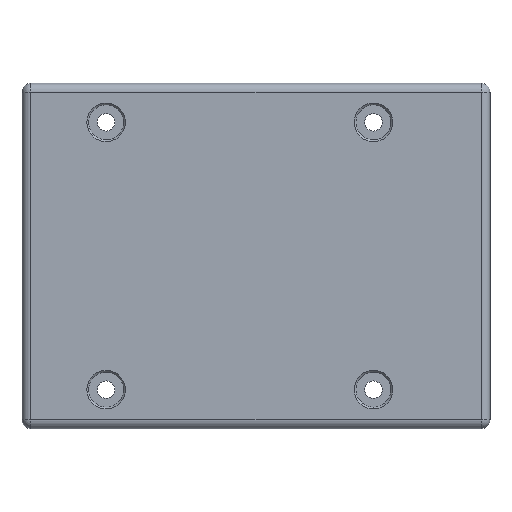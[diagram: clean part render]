
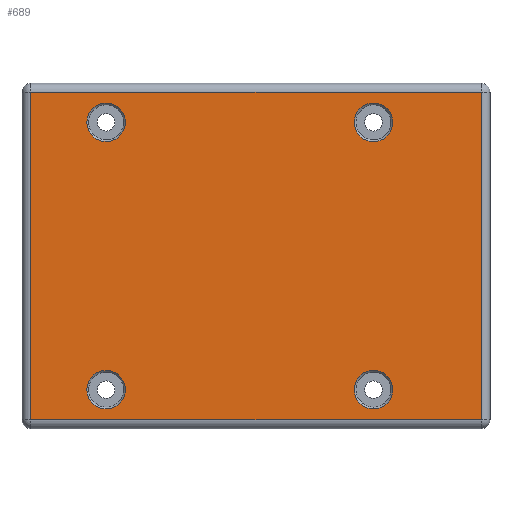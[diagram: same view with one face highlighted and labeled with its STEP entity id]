
A CAD part, front view. The second image highlights one B-rep face of the part: STEP entity #689.
In plain terms, the highlighted planar face has unit normal (0, -1, 0).
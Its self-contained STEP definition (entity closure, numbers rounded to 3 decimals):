
#6 = EDGE_CURVE ( 'NONE', #1682, #3384, #2053, .T. ) ;
#23 = ORIENTED_EDGE ( 'NONE', *, *, #2662, .T. ) ;
#28 = DIRECTION ( 'NONE',  ( 0., 0., 1. ) ) ;
#50 = VERTEX_POINT ( 'NONE', #3490 ) ;
#69 = CARTESIAN_POINT ( 'NONE',  ( 1., 0., -38.4 ) ) ;
#73 = EDGE_CURVE ( 'NONE', #2362, #3126, #3358, .T. ) ;
#135 = ORIENTED_EDGE ( 'NONE', *, *, #2341, .T. ) ;
#136 = CARTESIAN_POINT ( 'NONE',  ( 0., 0., 0. ) ) ;
#194 = CIRCLE ( 'NONE', #418, 2.2 ) ;
#226 = DIRECTION ( 'NONE',  ( 0., 1., 0. ) ) ;
#239 = AXIS2_PLACEMENT_3D ( 'NONE', #1353, #2969, #540 ) ;
#270 = DIRECTION ( 'NONE',  ( 0., 1., 0. ) ) ;
#280 = ORIENTED_EDGE ( 'NONE', *, *, #809, .T. ) ;
#288 = DIRECTION ( 'NONE',  ( 0., 0., -1. ) ) ;
#295 = ORIENTED_EDGE ( 'NONE', *, *, #964, .T. ) ;
#337 = DIRECTION ( 'NONE',  ( 0., 0., -1. ) ) ;
#348 = FACE_BOUND ( 'NONE', #2360, .T. ) ;
#401 = CARTESIAN_POINT ( 'NONE',  ( 52.4, 0., -38.4 ) ) ;
#418 = AXIS2_PLACEMENT_3D ( 'NONE', #3444, #226, #1090 ) ;
#430 = DIRECTION ( 'NONE',  ( -1., 0., 0. ) ) ;
#457 = CIRCLE ( 'NONE', #2376, 2.2 ) ;
#472 = EDGE_CURVE ( 'NONE', #3384, #634, #2150, .T. ) ;
#485 = ORIENTED_EDGE ( 'NONE', *, *, #3342, .T. ) ;
#501 = LINE ( 'NONE', #2702, #3393 ) ;
#528 = CARTESIAN_POINT ( 'NONE',  ( 1., 0., -39.4 ) ) ;
#540 = DIRECTION ( 'NONE',  ( 0., 0., -1. ) ) ;
#577 = CIRCLE ( 'NONE', #3190, 2.2 ) ;
#588 = VERTEX_POINT ( 'NONE', #401 ) ;
#605 = DIRECTION ( 'NONE',  ( 0., 1., 0. ) ) ;
#618 = FACE_BOUND ( 'NONE', #2912, .T. ) ;
#634 = VERTEX_POINT ( 'NONE', #69 ) ;
#643 = ORIENTED_EDGE ( 'NONE', *, *, #1720, .T. ) ;
#688 = AXIS2_PLACEMENT_3D ( 'NONE', #136, #2297, #1700 ) ;
#689 = ADVANCED_FACE ( 'NONE', ( #618, #348, #1750, #2028, #2832 ), #2566, .T. ) ;
#700 = DIRECTION ( 'NONE',  ( 0., 1., 0. ) ) ;
#727 = VERTEX_POINT ( 'NONE', #2363 ) ;
#809 = EDGE_CURVE ( 'NONE', #2811, #1331, #2593, .T. ) ;
#878 = DIRECTION ( 'NONE',  ( 0., 1., 0. ) ) ;
#931 = CARTESIAN_POINT ( 'NONE',  ( 1., 0., -1. ) ) ;
#964 = EDGE_CURVE ( 'NONE', #588, #1682, #501, .T. ) ;
#978 = EDGE_CURVE ( 'NONE', #1462, #50, #1421, .T. ) ;
#1090 = DIRECTION ( 'NONE',  ( 0., 0., -1. ) ) ;
#1105 = DIRECTION ( 'NONE',  ( 0., 1., 0. ) ) ;
#1142 = EDGE_LOOP ( 'NONE', ( #485, #295, #1369, #1245 ) ) ;
#1205 = VECTOR ( 'NONE', #430, 1000. ) ;
#1245 = ORIENTED_EDGE ( 'NONE', *, *, #472, .T. ) ;
#1253 = LINE ( 'NONE', #2538, #3414 ) ;
#1280 = ORIENTED_EDGE ( 'NONE', *, *, #978, .T. ) ;
#1302 = EDGE_CURVE ( 'NONE', #50, #1462, #457, .T. ) ;
#1331 = VERTEX_POINT ( 'NONE', #1467 ) ;
#1347 = VERTEX_POINT ( 'NONE', #3072 ) ;
#1353 = CARTESIAN_POINT ( 'NONE',  ( 40.1, 0., -34.95 ) ) ;
#1369 = ORIENTED_EDGE ( 'NONE', *, *, #6, .T. ) ;
#1421 = CIRCLE ( 'NONE', #3450, 2.2 ) ;
#1427 = CARTESIAN_POINT ( 'NONE',  ( 9.6, 0., -32.75 ) ) ;
#1462 = VERTEX_POINT ( 'NONE', #1535 ) ;
#1467 = CARTESIAN_POINT ( 'NONE',  ( 9.6, 0., -37.15 ) ) ;
#1535 = CARTESIAN_POINT ( 'NONE',  ( 9.6, 0., -6.65 ) ) ;
#1551 = CARTESIAN_POINT ( 'NONE',  ( 9.6, 0., -34.95 ) ) ;
#1580 = DIRECTION ( 'NONE',  ( 0., 1., 0. ) ) ;
#1607 = DIRECTION ( 'NONE',  ( 0., 0., -1. ) ) ;
#1682 = VERTEX_POINT ( 'NONE', #3215 ) ;
#1685 = CARTESIAN_POINT ( 'NONE',  ( 40.1, 0., -4.45 ) ) ;
#1700 = DIRECTION ( 'NONE',  ( 0., 0., -1. ) ) ;
#1701 = DIRECTION ( 'NONE',  ( 0., 0., -1. ) ) ;
#1720 = EDGE_CURVE ( 'NONE', #1331, #2811, #194, .T. ) ;
#1750 = FACE_BOUND ( 'NONE', #2670, .T. ) ;
#1830 = AXIS2_PLACEMENT_3D ( 'NONE', #2675, #270, #288 ) ;
#1852 = AXIS2_PLACEMENT_3D ( 'NONE', #1551, #700, #3462 ) ;
#1861 = CARTESIAN_POINT ( 'NONE',  ( 40.1, 0., -4.45 ) ) ;
#1899 = ORIENTED_EDGE ( 'NONE', *, *, #3023, .T. ) ;
#2028 = FACE_BOUND ( 'NONE', #2971, .T. ) ;
#2053 = LINE ( 'NONE', #2827, #1205 ) ;
#2150 = LINE ( 'NONE', #528, #2985 ) ;
#2297 = DIRECTION ( 'NONE',  ( 0., -1., 0. ) ) ;
#2303 = DIRECTION ( 'NONE',  ( 1., 0., 0. ) ) ;
#2341 = EDGE_CURVE ( 'NONE', #1347, #727, #3039, .T. ) ;
#2360 = EDGE_LOOP ( 'NONE', ( #2421, #23 ) ) ;
#2362 = VERTEX_POINT ( 'NONE', #2516 ) ;
#2363 = CARTESIAN_POINT ( 'NONE',  ( 40.1, 0., -2.25 ) ) ;
#2376 = AXIS2_PLACEMENT_3D ( 'NONE', #3035, #605, #337 ) ;
#2421 = ORIENTED_EDGE ( 'NONE', *, *, #73, .T. ) ;
#2453 = CARTESIAN_POINT ( 'NONE',  ( 9.6, 0., -4.45 ) ) ;
#2492 = ORIENTED_EDGE ( 'NONE', *, *, #1302, .T. ) ;
#2516 = CARTESIAN_POINT ( 'NONE',  ( 40.1, 0., -37.15 ) ) ;
#2526 = AXIS2_PLACEMENT_3D ( 'NONE', #1685, #878, #1701 ) ;
#2538 = CARTESIAN_POINT ( 'NONE',  ( 53.4, 0., -38.4 ) ) ;
#2566 = PLANE ( 'NONE',  #688 ) ;
#2593 = CIRCLE ( 'NONE', #1852, 2.2 ) ;
#2662 = EDGE_CURVE ( 'NONE', #3126, #2362, #2960, .T. ) ;
#2670 = EDGE_LOOP ( 'NONE', ( #135, #1899 ) ) ;
#2675 = CARTESIAN_POINT ( 'NONE',  ( 40.1, 0., -34.95 ) ) ;
#2702 = CARTESIAN_POINT ( 'NONE',  ( 52.4, 0., 0. ) ) ;
#2811 = VERTEX_POINT ( 'NONE', #1427 ) ;
#2827 = CARTESIAN_POINT ( 'NONE',  ( 0., 0., -1. ) ) ;
#2832 = FACE_OUTER_BOUND ( 'NONE', #1142, .T. ) ;
#2912 = EDGE_LOOP ( 'NONE', ( #643, #280 ) ) ;
#2960 = CIRCLE ( 'NONE', #239, 2.2 ) ;
#2969 = DIRECTION ( 'NONE',  ( 0., 1., 0. ) ) ;
#2971 = EDGE_LOOP ( 'NONE', ( #1280, #2492 ) ) ;
#2985 = VECTOR ( 'NONE', #1607, 1000. ) ;
#3023 = EDGE_CURVE ( 'NONE', #727, #1347, #577, .T. ) ;
#3035 = CARTESIAN_POINT ( 'NONE',  ( 9.6, 0., -4.45 ) ) ;
#3039 = CIRCLE ( 'NONE', #2526, 2.2 ) ;
#3072 = CARTESIAN_POINT ( 'NONE',  ( 40.1, 0., -6.65 ) ) ;
#3126 = VERTEX_POINT ( 'NONE', #3282 ) ;
#3190 = AXIS2_PLACEMENT_3D ( 'NONE', #1861, #1580, #3191 ) ;
#3191 = DIRECTION ( 'NONE',  ( 0., 0., -1. ) ) ;
#3215 = CARTESIAN_POINT ( 'NONE',  ( 52.4, 0., -1. ) ) ;
#3268 = DIRECTION ( 'NONE',  ( 0., 0., -1. ) ) ;
#3282 = CARTESIAN_POINT ( 'NONE',  ( 40.1, 0., -32.75 ) ) ;
#3342 = EDGE_CURVE ( 'NONE', #634, #588, #1253, .T. ) ;
#3358 = CIRCLE ( 'NONE', #1830, 2.2 ) ;
#3384 = VERTEX_POINT ( 'NONE', #931 ) ;
#3393 = VECTOR ( 'NONE', #28, 1000. ) ;
#3414 = VECTOR ( 'NONE', #2303, 1000. ) ;
#3444 = CARTESIAN_POINT ( 'NONE',  ( 9.6, 0., -34.95 ) ) ;
#3450 = AXIS2_PLACEMENT_3D ( 'NONE', #2453, #1105, #3268 ) ;
#3462 = DIRECTION ( 'NONE',  ( 0., 0., -1. ) ) ;
#3490 = CARTESIAN_POINT ( 'NONE',  ( 9.6, 0., -2.25 ) ) ;
